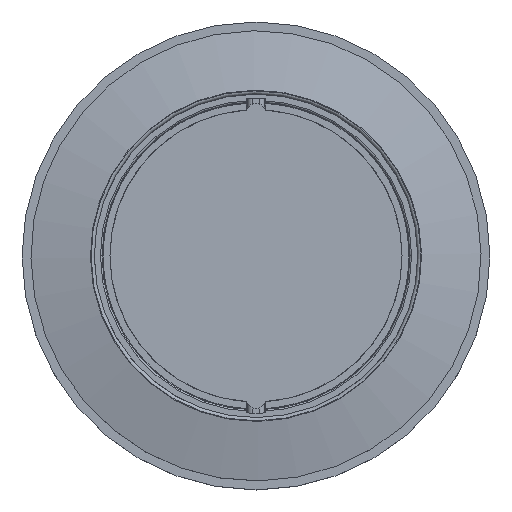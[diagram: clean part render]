
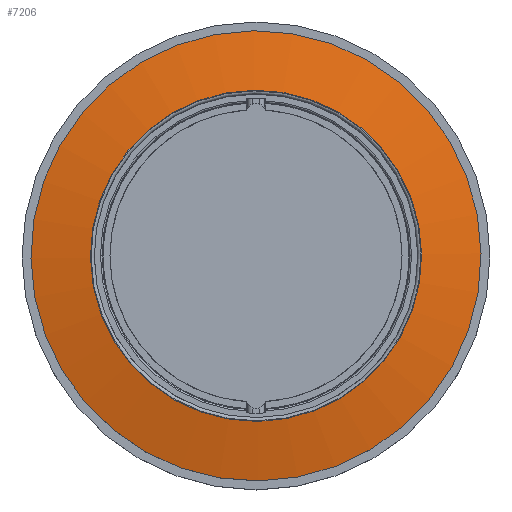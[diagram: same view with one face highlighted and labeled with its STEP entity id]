
A CAD part, top view. The second image highlights one B-rep face of the part: STEP entity #7206.
In plain terms, the highlighted conical face has half-angle 78.5 degrees and reference radius 12.107 mm.
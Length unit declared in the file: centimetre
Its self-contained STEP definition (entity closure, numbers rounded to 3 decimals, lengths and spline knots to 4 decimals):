
#75=CONICAL_SURFACE('',#7774,1.2107,1.37);
#988=FACE_OUTER_BOUND('',#1406,.T.);
#1406=EDGE_LOOP('',(#5682,#5683,#5684,#5685));
#1799=LINE('',#18982,#2187);
#2187=VECTOR('',#9042,1.2107);
#2499=CIRCLE('',#7773,1.395);
#2500=CIRCLE('',#7775,1.0264);
#3020=VERTEX_POINT('',#18977);
#3021=VERTEX_POINT('',#18981);
#3944=EDGE_CURVE('',#3020,#3020,#2499,.T.);
#3946=EDGE_CURVE('',#3020,#3021,#1799,.T.);
#3947=EDGE_CURVE('',#3021,#3021,#2500,.T.);
#5682=ORIENTED_EDGE('',*,*,#3944,.T.);
#5683=ORIENTED_EDGE('',*,*,#3946,.T.);
#5684=ORIENTED_EDGE('',*,*,#3947,.F.);
#5685=ORIENTED_EDGE('',*,*,#3946,.F.);
#7206=ADVANCED_FACE('',(#988),#75,.T.);
#7773=AXIS2_PLACEMENT_3D('',#18978,#9037,#9038);
#7774=AXIS2_PLACEMENT_3D('',#18980,#9040,#9041);
#7775=AXIS2_PLACEMENT_3D('',#18983,#9043,#9044);
#9037=DIRECTION('center_axis',(0.,0.,
1.));
#9038=DIRECTION('ref_axis',(-0.983,-0.184,0.));
#9040=DIRECTION('center_axis',(0.,0.,
-1.));
#9041=DIRECTION('ref_axis',(-0.983,-0.184,0.));
#9042=DIRECTION('',(-0.963,-0.181,0.199));
#9043=DIRECTION('center_axis',(0.,0.,
1.));
#9044=DIRECTION('ref_axis',(-0.983,-0.184,0.));
#18977=CARTESIAN_POINT('',(1.3711,0.2571,0.8275));
#18978=CARTESIAN_POINT('Origin',(0.,0.,
0.8275));
#18980=CARTESIAN_POINT('Origin',(0.,0.,
0.865));
#18981=CARTESIAN_POINT('',(1.0088,0.1892,0.9025));
#18982=CARTESIAN_POINT('',(1.1899,0.2232,0.865));
#18983=CARTESIAN_POINT('Origin',(0.,0.,
0.9025));
